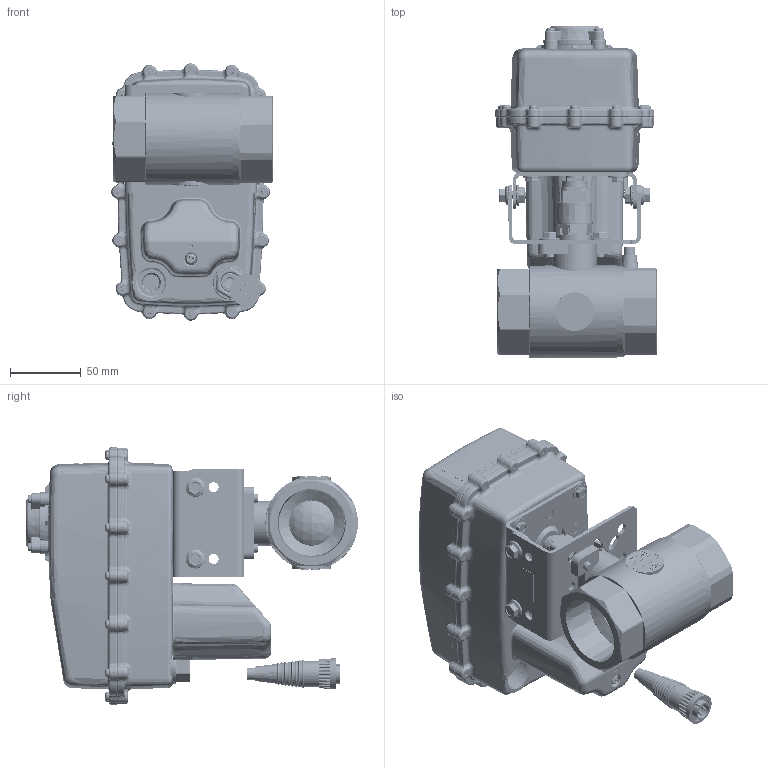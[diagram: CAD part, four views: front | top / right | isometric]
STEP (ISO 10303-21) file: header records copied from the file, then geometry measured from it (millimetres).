
FILE_DESCRIPTION (( 'STEP AP203' ), '1' );
FILE_NAME ('67H22-10DY0-CF1.STEP', '2025-05-13T19:36:00', ( '' ), ( '' ), 'SwSTEP 2.0', 'SolidWorks 2021', '' );
FILE_SCHEMA (( 'CONFIG_CONTROL_DESIGN' ));
Length unit declared in the file: inch
Products named in the file (1): 67H22-10DY0-CF1
Bounding box: 114.36 x 235.08 x 182.34 mm (x, y, z)
Volume: 615537.2 mm3; surface area: 363387.7 mm2
Topology: 75 solids, 75 shells, 9946 faces, 25523 edges, 15558 vertices
Faces by surface type: cylinder 3032, plane 2243, bspline 2095, torus 1477, cone 694, sphere 405
Entity records: 430284 total; most frequent: CARTESIAN_POINT 213595, ORIENTED_EDGE 49942, DIRECTION 40685, EDGE_CURVE 24971, AXIS2_PLACEMENT_3D 16252, VERTEX_POINT 15355, EDGE_LOOP 10340, FACE_OUTER_BOUND 9946
